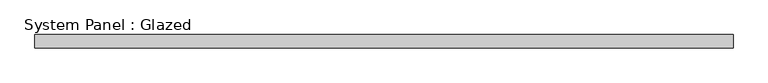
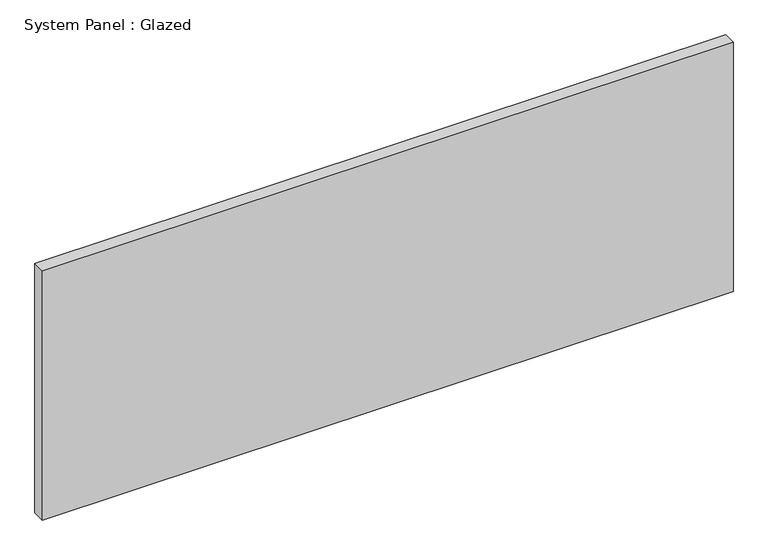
"""IFC4 building model written with IfcOpenShell, lengths in millimetres: plate geometry, System Panel : Glazed."""

from ifc_helpers import new_model, si_unit, origin, origin_with_axes, place, context, project, spatial, polyline, outline, extrude, source, transform, mapped, element, save


def system_panel_glazed_22e72e10(model_context):
    return source(origin(), model_context, "Body", "SweptSolid", [
        extrude(outline(polyline([(669.5386914, 19.05), (-669.5386914, 19.05), (-669.5386914, 44.45), (669.5386914, 44.45), (669.5386914, 19.05)])), origin_with_axes(), (0.0, 0.0, 1.0), 511.3509366),
    ])


if __name__ == "__main__":
    model = new_model("IFC4")
    model_context = context("Model", 3, world=origin())
    ifc_project = project(units=[si_unit("LENGTHUNIT", "METRE", prefix="MILLI")], contexts=[model_context])
    site = spatial("IfcSite", under=ifc_project)
    building = spatial("IfcBuilding", under=site)
    placement = place(None, origin())
    system_panel_glazed_shape = system_panel_glazed_22e72e10(model_context)
    element("IfcPlate", 1, ObjectType="System Panel : Glazed", at=placement, inside=building, context=model_context, shape_type="MappedRepresentation", body=[
        mapped(system_panel_glazed_shape, transform((0.0, 0.0, 0.0), x_axis=(1.0, 0.0, 0.0), y_axis=(0.0, 1.0, 0.0), z_axis=(0.0, 0.0, 1.0))),
    ])
    save(model, "model.ifc")
